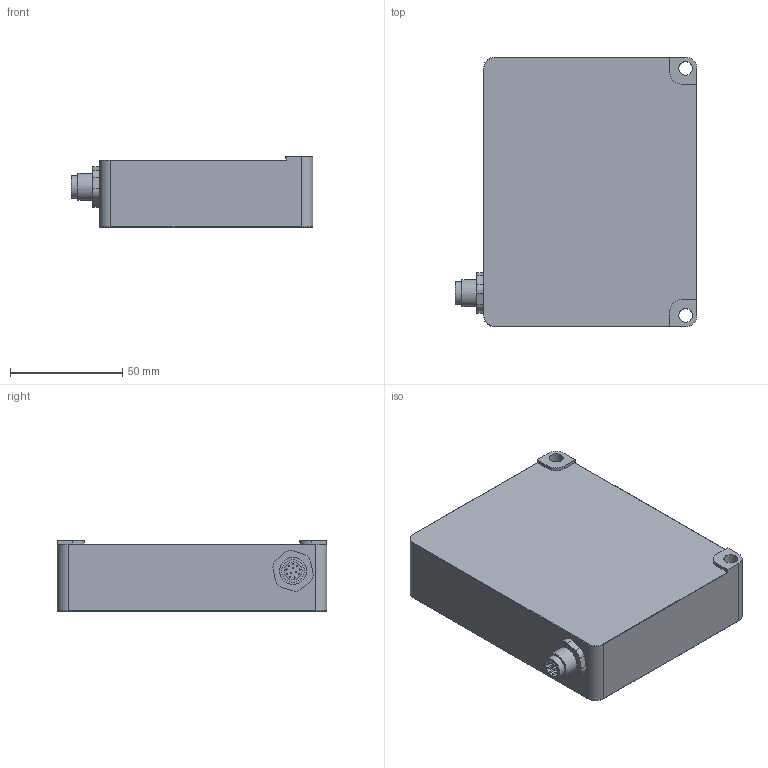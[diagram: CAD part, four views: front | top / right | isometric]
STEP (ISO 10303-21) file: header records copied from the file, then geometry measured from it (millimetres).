
FILE_DESCRIPTION((''),'2;1');
FILE_NAME('Z:\udvikling\Inventor Tegninger\Produktions Tegninger\8000 NEW BLACKLINE\Step Files for Homepage\Step Files for Short Range 3D\Step File Black-Line Short Range 3D DSE.stp','2017-03-24T01:52:47',('Peter'),(''),'Autodesk Inventor 2008','Autodesk Inventor 2008','');
FILE_SCHEMA(('AUTOMOTIVE_DESIGN { 1 0 10303 214 1 1 1 1 }'));
Length unit declared in the file: millimetre
Products named in the file (7): Assembly Step File Black-Line Short Range 3D DSE; 8001-01 Låg uden flap; M12 12pol Connector; 7004-01 Greyline Frontglas Ø18; 8003-04 House_ShortRange; Frontglas Laser; LABEL Black-Line DSE
Assembly tree (6 placements, depth 2):
  Assembly Step File Black-Line Short Range 3D DSE
    8001-01 Låg uden flap
    M12 12pol Connector
    7004-01 Greyline Frontglas Ø18
    8003-04 House_ShortRange
    Frontglas Laser
    LABEL Black-Line DSE
Bounding box: 107.6 x 120 x 31.5 mm (x, y, z)
Volume: 88289.7 mm3; surface area: 86491.7 mm2
Topology: 6 solids, 6 shells, 261 faces, 676 edges, 446 vertices
Faces by surface type: plane 126, cylinder 113, bspline 16, cone 6
Full cylindrical faces by diameter (mm): 0.5 x12, 6.2 x2, 7 x2, 8 x1, 10 x1, 11.8 x1, 12 x2, 13.778 x1, 16 x2, 18 x1
Entity records: 8216 total; most frequent: CARTESIAN_POINT 1602, DIRECTION 1400, ORIENTED_EDGE 1246, EDGE_CURVE 623, AXIS2_PLACEMENT_3D 521, VERTEX_POINT 430, VECTOR 358, LINE 358
